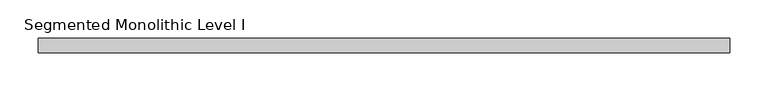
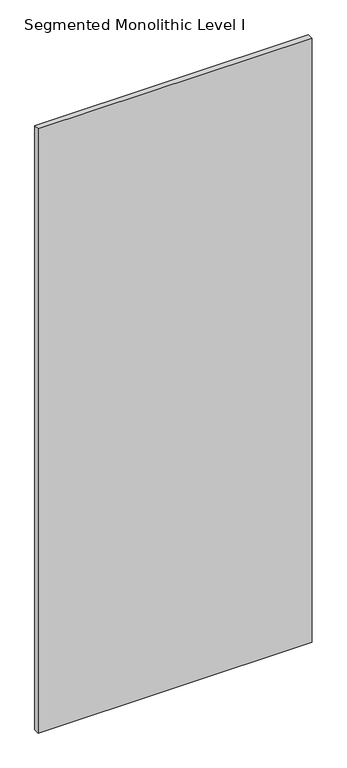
"""IFC4 building model written with IfcOpenShell, lengths in millimetres: proxy geometry, Panel-Fascia-Teknion-Altos-Standard : Segmented Monolithic Level I."""

from ifc_helpers import new_model, si_unit, frame, origin, place, context, project, spatial, polyline, outline, extrude, source, transform, mapped, element, save


def segmented_monolithic_level_i_26a9d159(model_context):
    return source(origin(), model_context, "Body", "SweptSolid", [
        extrude(outline(polyline([(454.025, 9.525), (454.025, -9.525), (-454.025, -9.525), (-454.025, 9.525), (454.025, 9.525)])), frame((0.0, 0.0, 3.175), z_axis=(0.0, 0.0, 1.0), x_axis=(1.0, 0.0, 0.0)), (0.0, 0.0, 1.0), 2117.725),
    ])


if __name__ == "__main__":
    model = new_model("IFC4")
    model_context = context("Model", 3, world=origin())
    ifc_project = project(units=[si_unit("LENGTHUNIT", "METRE", prefix="MILLI")], contexts=[model_context])
    site = spatial("IfcSite", under=ifc_project)
    building = spatial("IfcBuilding", under=site)
    placement = place(None, origin())
    segmented_monolithic_level_i_shape = segmented_monolithic_level_i_26a9d159(model_context)
    element("IfcBuildingElementProxy", 1, Name="Panel-Fascia-Teknion-Altos-Standard : Segmented Monolithic Level I", ObjectType="Panel-Fascia-Teknion-Altos-Standard : Segmented Monolithic Level I", at=placement, inside=building, context=model_context, shape_type="MappedRepresentation", body=[
        mapped(segmented_monolithic_level_i_shape, transform((0.0, 0.0, 0.0), x_axis=(1.0, 0.0, 0.0), y_axis=(0.0, 1.0, 0.0), z_axis=(0.0, 0.0, 1.0))),
    ])
    save(model, "model.ifc")
